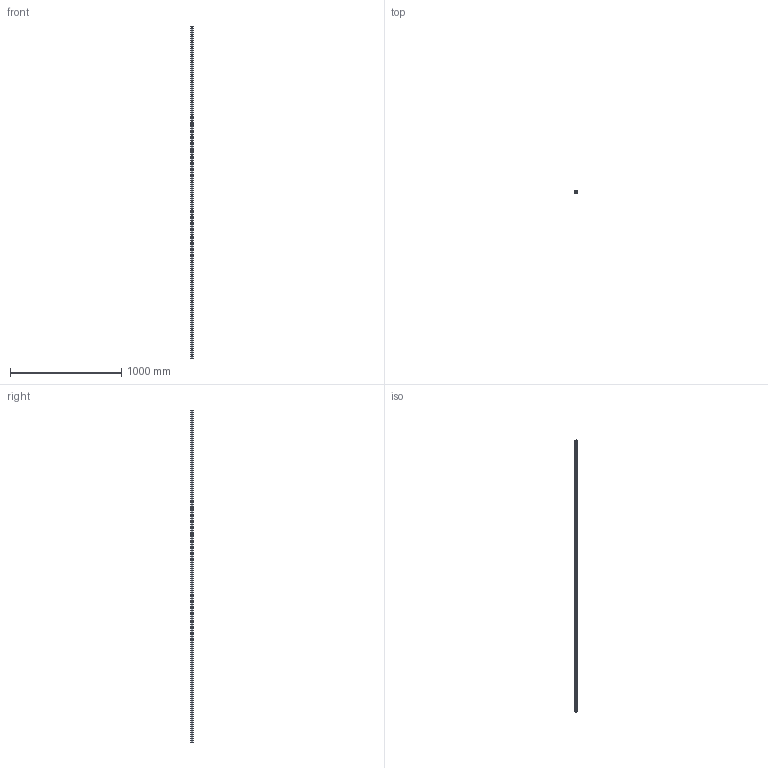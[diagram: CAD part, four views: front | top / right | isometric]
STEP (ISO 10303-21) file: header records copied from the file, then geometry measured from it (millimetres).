
FILE_DESCRIPTION (( 'STEP AP203' ), '1' );
FILE_NAME ('L1016.BRF25-2980.step', '2019-06-13T08:44:44', ( '' ), ( '' ), 'SwSTEP 2.0', 'SolidWorks 2017', '' );
FILE_SCHEMA (( 'CONFIG_CONTROL_DESIGN' ));
Length unit declared in the file: millimetre
Products named in the file (1): L1016.BRF25-2980
Bounding box: 23 x 19.2 x 2980 mm (x, y, z)
Volume: 1137777.5 mm3; surface area: 274224.5 mm2
Topology: 1 solids, 1 shells, 376 faces, 872 edges, 498 vertices
Faces by surface type: cylinder 204, cone 100, plane 72
Entity records: 10101 total; most frequent: DIRECTION 1934, CARTESIAN_POINT 1647, ORIENTED_EDGE 1544, AXIS2_PLACEMENT_3D 785, EDGE_CURVE 772, VERTEX_POINT 498, EDGE_LOOP 476, CIRCLE 408
